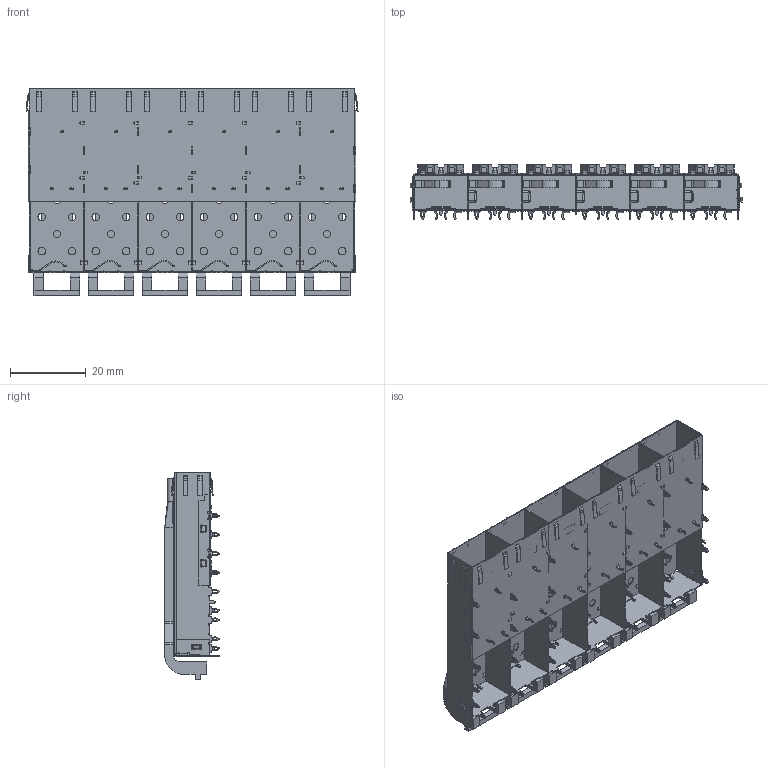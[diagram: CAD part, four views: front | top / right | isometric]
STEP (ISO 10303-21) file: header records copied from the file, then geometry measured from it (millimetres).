
FILE_DESCRIPTION(/* description */ (''),/* implementation_level */ '2;1');
FILE_NAME(/* name */ 'SFP 1X6 压接脚2.05 有月牙 导光柱10.87.stp',/* time_stamp */ '2026-08-29T10:46:13+08:00',/* author */ (''),/* organization */ (''),/* preprocessor_version */ 'ST-DEVELOPER v16.7',/* originating_system */ 'SIEMENS PLM Software NX 1847',/* authorisation */ '');
FILE_SCHEMA (('AUTOMOTIVE_DESIGN { 1 0 10303 214 3 1 1 1 }'));
Products named in the file (1): Admi29F470BBidew
Bounding box: 87.56 x 14.37 x 54.82 mm (x, y, z)
Volume: 6815.3 mm3; surface area: 30326.2 mm2
Topology: 1 solids, 1 shells, 4548 faces, 12350 edges, 7841 vertices
Faces by surface type: plane 2629, cylinder 1839, bspline 68, torus 10, cone 2
Full cylindrical faces by diameter (mm): 1.5 x12
Entity records: 145127 total; most frequent: CARTESIAN_POINT 27477, DIRECTION 24790, ORIENTED_EDGE 24664, EDGE_CURVE 12332, LINE 8402, VECTOR 8402, AXIS2_PLACEMENT_3D 8194, VERTEX_POINT 7835
